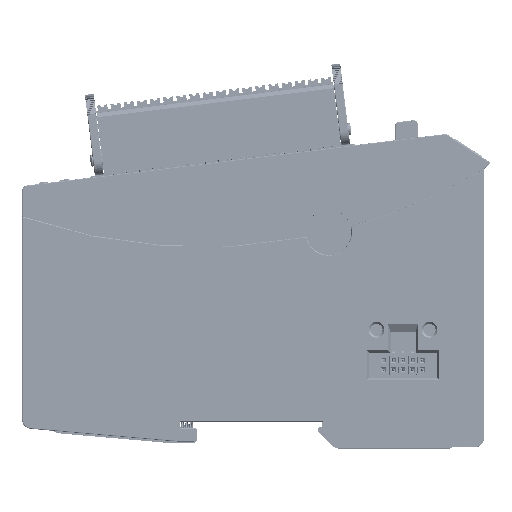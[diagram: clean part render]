
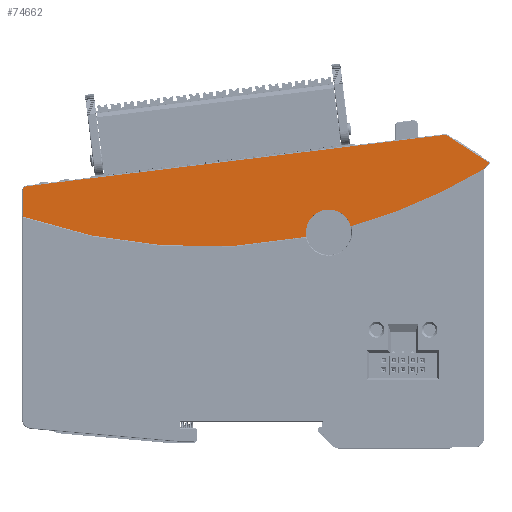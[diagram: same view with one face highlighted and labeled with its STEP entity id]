
A CAD part, top view. The second image highlights one B-rep face of the part: STEP entity #74662.
In plain terms, the highlighted planar face has unit normal (0, 0, 1).
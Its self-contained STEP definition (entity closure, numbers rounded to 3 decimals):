
#56181=AXIS2_PLACEMENT_3D('Circle Axis2P3D',#56179,#56180,$) ;
#56206=AXIS2_PLACEMENT_3D('Circle Axis2P3D',#56204,#56205,$) ;
#74499=AXIS2_PLACEMENT_3D('Circle Axis2P3D',#74497,#74498,$) ;
#74523=AXIS2_PLACEMENT_3D('Circle Axis2P3D',#74521,#74522,$) ;
#74536=AXIS2_PLACEMENT_3D('Plane Axis2P3D',#74533,#74534,#74535) ;
#74566=AXIS2_PLACEMENT_3D('Circle Axis2P3D',#74564,#74565,$) ;
#74598=AXIS2_PLACEMENT_3D('Circle Axis2P3D',#74596,#74597,$) ;
#74605=AXIS2_PLACEMENT_3D('Circle Axis2P3D',#74603,#74604,$) ;
#74641=AXIS2_PLACEMENT_3D('Circle Axis2P3D',#74639,#74640,$) ;
#48693=CARTESIAN_POINT('Vertex',(109.882,76.012,23.3)) ;
#48700=CARTESIAN_POINT('Vertex',(-0.258,62.488,23.3)) ;
#48703=CARTESIAN_POINT('Line Origine',(60.199,69.912,23.3)) ;
#56155=CARTESIAN_POINT('Vertex',(120.249,66.935,23.3)) ;
#56176=CARTESIAN_POINT('Vertex',(120.3,66.949,23.3)) ;
#56179=CARTESIAN_POINT('Axis2P3D Location',(120.3,66.849,23.3)) ;
#56201=CARTESIAN_POINT('Vertex',(120.399,67.159,23.3)) ;
#56204=CARTESIAN_POINT('Axis2P3D Location',(120.6,66.936,23.3)) ;
#74494=CARTESIAN_POINT('Vertex',(-1.4,61.198,23.3)) ;
#74497=CARTESIAN_POINT('Axis2P3D Location',(-0.1,61.198,23.3)) ;
#74518=CARTESIAN_POINT('Vertex',(110.749,75.812,23.3)) ;
#74521=CARTESIAN_POINT('Axis2P3D Location',(110.041,74.722,23.3)) ;
#74533=CARTESIAN_POINT('Axis2P3D Location',(-1.6,-1.675,23.3)) ;
#74538=CARTESIAN_POINT('Line Origine',(121.058,67.752,23.3)) ;
#74542=CARTESIAN_POINT('Vertex',(121.716,68.345,23.3)) ;
#74545=CARTESIAN_POINT('Line Origine',(121.673,68.545,23.3)) ;
#74549=CARTESIAN_POINT('Vertex',(121.631,68.745,23.3)) ;
#74552=CARTESIAN_POINT('Line Origine',(116.19,72.278,23.3)) ;
#74557=CARTESIAN_POINT('Line Origine',(-1.4,57.827,23.3)) ;
#74561=CARTESIAN_POINT('Vertex',(-1.4,54.456,23.3)) ;
#74564=CARTESIAN_POINT('Axis2P3D Location',(46.007,191.487,23.3)) ;
#74568=CARTESIAN_POINT('Vertex',(73.331,49.085,23.3)) ;
#74572=CARTESIAN_POINT('Control Point',(73.331,49.085,23.3)) ;
#74573=CARTESIAN_POINT('Control Point',(73.344,49.087,23.3)) ;
#74574=CARTESIAN_POINT('Control Point',(73.357,49.088,23.3)) ;
#74575=CARTESIAN_POINT('Control Point',(73.37,49.089,23.3)) ;
#74576=CARTESIAN_POINT('Control Point',(73.396,49.087,23.3)) ;
#74577=CARTESIAN_POINT('Control Point',(73.421,49.082,23.3)) ;
#74578=CARTESIAN_POINT('Control Point',(73.433,49.078,23.3)) ;
#74579=CARTESIAN_POINT('Control Point',(73.457,49.069,23.3)) ;
#74580=CARTESIAN_POINT('Control Point',(73.48,49.055,23.3)) ;
#74581=CARTESIAN_POINT('Control Point',(73.49,49.048,23.3)) ;
#74582=CARTESIAN_POINT('Control Point',(73.51,49.031,23.3)) ;
#74583=CARTESIAN_POINT('Control Point',(73.527,49.012,23.3)) ;
#74584=CARTESIAN_POINT('Control Point',(73.535,49.001,23.3)) ;
#74585=CARTESIAN_POINT('Control Point',(73.545,48.984,23.3)) ;
#74586=CARTESIAN_POINT('Control Point',(73.553,48.967,23.3)) ;
#74587=CARTESIAN_POINT('Control Point',(73.555,48.961,23.3)) ;
#74588=CARTESIAN_POINT('Control Point',(73.559,48.952,23.3)) ;
#74589=CARTESIAN_POINT('Control Point',(73.561,48.943,23.3)) ;
#74590=CARTESIAN_POINT('Control Point',(73.562,48.94,23.3)) ;
#74591=CARTESIAN_POINT('Control Point',(73.563,48.937,23.3)) ;
#74592=CARTESIAN_POINT('Control Point',(73.563,48.935,23.3)) ;
#74593=CARTESIAN_POINT('Vertex',(73.563,48.935,23.3)) ;
#74596=CARTESIAN_POINT('Axis2P3D Location',(79.4,50.325,23.3)) ;
#74600=CARTESIAN_POINT('Vertex',(73.4,50.325,23.3)) ;
#74603=CARTESIAN_POINT('Axis2P3D Location',(79.4,50.325,23.3)) ;
#74607=CARTESIAN_POINT('Vertex',(85.194,51.883,23.3)) ;
#74611=CARTESIAN_POINT('Control Point',(85.194,51.883,23.3)) ;
#74612=CARTESIAN_POINT('Control Point',(85.199,51.864,23.3)) ;
#74613=CARTESIAN_POINT('Control Point',(85.204,51.845,23.3)) ;
#74614=CARTESIAN_POINT('Control Point',(85.209,51.826,23.3)) ;
#74615=CARTESIAN_POINT('Control Point',(85.214,51.807,23.3)) ;
#74616=CARTESIAN_POINT('Control Point',(85.219,51.788,23.3)) ;
#74617=CARTESIAN_POINT('Vertex',(85.219,51.788,23.3)) ;
#74621=CARTESIAN_POINT('Control Point',(85.219,51.788,23.3)) ;
#74622=CARTESIAN_POINT('Control Point',(85.217,51.797,23.3)) ;
#74623=CARTESIAN_POINT('Control Point',(85.215,51.807,23.3)) ;
#74624=CARTESIAN_POINT('Control Point',(85.215,51.816,23.3)) ;
#74625=CARTESIAN_POINT('Control Point',(85.217,51.835,23.3)) ;
#74626=CARTESIAN_POINT('Control Point',(85.223,51.852,23.3)) ;
#74627=CARTESIAN_POINT('Control Point',(85.227,51.861,23.3)) ;
#74628=CARTESIAN_POINT('Control Point',(85.238,51.877,23.3)) ;
#74629=CARTESIAN_POINT('Control Point',(85.251,51.89,23.3)) ;
#74630=CARTESIAN_POINT('Control Point',(85.259,51.896,23.3)) ;
#74631=CARTESIAN_POINT('Control Point',(85.269,51.902,23.3)) ;
#74632=CARTESIAN_POINT('Control Point',(85.28,51.906,23.3)) ;
#74633=CARTESIAN_POINT('Control Point',(85.283,51.907,23.3)) ;
#74634=CARTESIAN_POINT('Control Point',(85.286,51.908,23.3)) ;
#74635=CARTESIAN_POINT('Control Point',(85.289,51.909,23.3)) ;
#74636=CARTESIAN_POINT('Vertex',(85.289,51.909,23.3)) ;
#74639=CARTESIAN_POINT('Axis2P3D Location',(46.007,191.487,23.3)) ;
#48704=DIRECTION('Vector Direction',(-0.993,-0.122,0.)) ;
#56180=DIRECTION('Axis2P3D Direction',(0.,0.,1.)) ;
#56205=DIRECTION('Axis2P3D Direction',(0.,0.,1.)) ;
#74498=DIRECTION('Axis2P3D Direction',(0.,0.,1.)) ;
#74522=DIRECTION('Axis2P3D Direction',(0.,0.,1.)) ;
#74534=DIRECTION('Axis2P3D Direction',(0.,0.,1.)) ;
#74535=DIRECTION('Axis2P3D XDirection',(1.,0.,0.)) ;
#74539=DIRECTION('Vector Direction',(0.743,0.669,0.)) ;
#74546=DIRECTION('Vector Direction',(-0.208,0.978,0.)) ;
#74553=DIRECTION('Vector Direction',(0.839,-0.545,0.)) ;
#74558=DIRECTION('Vector Direction',(0.,1.,0.)) ;
#74565=DIRECTION('Axis2P3D Direction',(0.,0.,1.)) ;
#74597=DIRECTION('Axis2P3D Direction',(0.,0.,1.)) ;
#74604=DIRECTION('Axis2P3D Direction',(0.,0.,1.)) ;
#74640=DIRECTION('Axis2P3D Direction',(0.,0.,1.)) ;
#48705=VECTOR('Line Direction',#48704,1.) ;
#74540=VECTOR('Line Direction',#74539,1.) ;
#74547=VECTOR('Line Direction',#74546,1.) ;
#74554=VECTOR('Line Direction',#74553,1.) ;
#74559=VECTOR('Line Direction',#74558,1.) ;
#74645=ORIENTED_EDGE('',*,*,#56183,.F.) ;
#74646=ORIENTED_EDGE('',*,*,#56208,.T.) ;
#74647=ORIENTED_EDGE('',*,*,#74544,.T.) ;
#74648=ORIENTED_EDGE('',*,*,#74551,.F.) ;
#74649=ORIENTED_EDGE('',*,*,#74556,.T.) ;
#74650=ORIENTED_EDGE('',*,*,#74525,.T.) ;
#74651=ORIENTED_EDGE('',*,*,#48707,.T.) ;
#74652=ORIENTED_EDGE('',*,*,#74501,.T.) ;
#74653=ORIENTED_EDGE('',*,*,#74563,.T.) ;
#74654=ORIENTED_EDGE('',*,*,#74570,.T.) ;
#74655=ORIENTED_EDGE('',*,*,#74595,.F.) ;
#74656=ORIENTED_EDGE('',*,*,#74602,.F.) ;
#74657=ORIENTED_EDGE('',*,*,#74609,.F.) ;
#74658=ORIENTED_EDGE('',*,*,#74619,.T.) ;
#74659=ORIENTED_EDGE('',*,*,#74638,.F.) ;
#74660=ORIENTED_EDGE('',*,*,#74643,.T.) ;
#74662=ADVANCED_FACE('K\X2\00F6\X0\rper.2',(#74661),#74537,.T.) ;
#74571=B_SPLINE_CURVE_WITH_KNOTS('',5,(#74572,#74573,#74574,#74575,#74576,#74577,#74578,#74579,#74580,#74581,#74582,#74583,#74584,#74585,#74586,#74587,#74588,#74589,#74590,#74591,#74592),.UNSPECIFIED.,.F.,.U.,(6,3,3,3,3,3,6),(0.,0.091,0.182,0.274,0.365,0.41,0.431),.UNSPECIFIED.) ;
#74610=B_SPLINE_CURVE_WITH_KNOTS('',5,(#74611,#74612,#74613,#74614,#74615,#74616),.UNSPECIFIED.,.F.,.U.,(6,6),(0.,0.14),.UNSPECIFIED.) ;
#74620=B_SPLINE_CURVE_WITH_KNOTS('',5,(#74621,#74622,#74623,#74624,#74625,#74626,#74627,#74628,#74629,#74630,#74631,#74632,#74633,#74634,#74635),.UNSPECIFIED.,.F.,.U.,(6,3,3,3,6),(0.,0.055,0.11,0.166,0.183),.UNSPECIFIED.) ;
#56182=CIRCLE('generated circle',#56181,0.1) ;
#56207=CIRCLE('generated circle',#56206,0.3) ;
#74500=CIRCLE('generated circle',#74499,1.3) ;
#74524=CIRCLE('generated circle',#74523,1.3) ;
#74567=CIRCLE('generated circle',#74566,145.) ;
#74599=CIRCLE('generated circle',#74598,6.) ;
#74606=CIRCLE('generated circle',#74605,6.) ;
#74642=CIRCLE('generated circle',#74641,145.) ;
#48707=EDGE_CURVE('',#48694,#48701,#48706,.T.) ;
#56183=EDGE_CURVE('',#56177,#56156,#56182,.T.) ;
#56208=EDGE_CURVE('',#56177,#56202,#56207,.F.) ;
#74501=EDGE_CURVE('',#48701,#74495,#74500,.T.) ;
#74525=EDGE_CURVE('',#74519,#48694,#74524,.T.) ;
#74544=EDGE_CURVE('',#56202,#74543,#74541,.T.) ;
#74551=EDGE_CURVE('',#74550,#74543,#74548,.F.) ;
#74556=EDGE_CURVE('',#74550,#74519,#74555,.F.) ;
#74563=EDGE_CURVE('',#74495,#74562,#74560,.F.) ;
#74570=EDGE_CURVE('',#74562,#74569,#74567,.T.) ;
#74595=EDGE_CURVE('',#74594,#74569,#74571,.F.) ;
#74602=EDGE_CURVE('',#74601,#74594,#74599,.T.) ;
#74609=EDGE_CURVE('',#74608,#74601,#74606,.T.) ;
#74619=EDGE_CURVE('',#74608,#74618,#74610,.T.) ;
#74638=EDGE_CURVE('',#74637,#74618,#74620,.F.) ;
#74643=EDGE_CURVE('',#74637,#56156,#74642,.T.) ;
#74644=EDGE_LOOP('',(#74645,#74646,#74647,#74648,#74649,#74650,#74651,#74652,#74653,#74654,#74655,#74656,#74657,#74658,#74659,#74660)) ;
#74661=FACE_OUTER_BOUND('',#74644,.T.) ;
#48706=LINE('Line',#48703,#48705) ;
#74541=LINE('Line',#74538,#74540) ;
#74548=LINE('Line',#74545,#74547) ;
#74555=LINE('Line',#74552,#74554) ;
#74560=LINE('Line',#74557,#74559) ;
#74537=PLANE('Plane',#74536) ;
#48694=VERTEX_POINT('',#48693) ;
#48701=VERTEX_POINT('',#48700) ;
#56156=VERTEX_POINT('',#56155) ;
#56177=VERTEX_POINT('',#56176) ;
#56202=VERTEX_POINT('',#56201) ;
#74495=VERTEX_POINT('',#74494) ;
#74519=VERTEX_POINT('',#74518) ;
#74543=VERTEX_POINT('',#74542) ;
#74550=VERTEX_POINT('',#74549) ;
#74562=VERTEX_POINT('',#74561) ;
#74569=VERTEX_POINT('',#74568) ;
#74594=VERTEX_POINT('',#74593) ;
#74601=VERTEX_POINT('',#74600) ;
#74608=VERTEX_POINT('',#74607) ;
#74618=VERTEX_POINT('',#74617) ;
#74637=VERTEX_POINT('',#74636) ;
